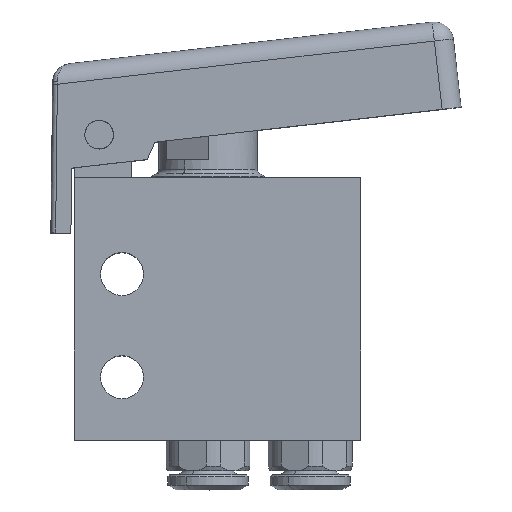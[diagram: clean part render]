
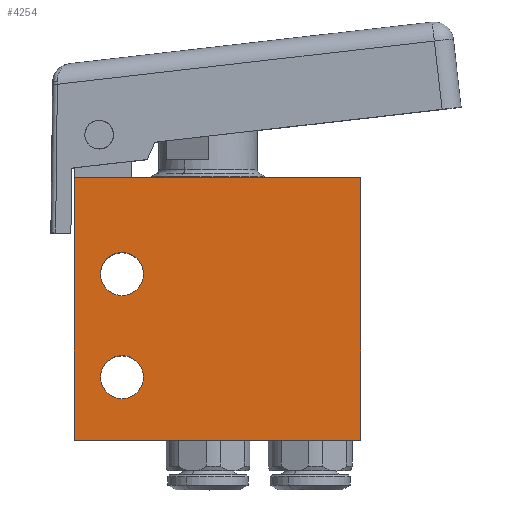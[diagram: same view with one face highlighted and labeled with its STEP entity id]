
A CAD part, top view. The second image highlights one B-rep face of the part: STEP entity #4254.
In plain terms, the highlighted planar face has unit normal (0, 0, 1).
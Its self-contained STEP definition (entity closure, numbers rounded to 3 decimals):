
#105 = DIRECTION ( 'NONE',  ( 1., 0., 0. ) ) ;
#197 = ORIENTED_EDGE ( 'NONE', *, *, #1123, .F. ) ;
#403 = ORIENTED_EDGE ( 'NONE', *, *, #1921, .T. ) ;
#407 = AXIS2_PLACEMENT_3D ( 'NONE', #2236, #5546, #5606 ) ;
#461 = VERTEX_POINT ( 'NONE', #7189 ) ;
#636 = CARTESIAN_POINT ( 'NONE',  ( 2.75, 17.4, 15. ) ) ;
#712 = EDGE_LOOP ( 'NONE', ( #197, #950 ) ) ;
#800 = CARTESIAN_POINT ( 'NONE',  ( 5., 17.4, 15. ) ) ;
#897 = CARTESIAN_POINT ( 'NONE',  ( 0., 27.5, 15. ) ) ;
#950 = ORIENTED_EDGE ( 'NONE', *, *, #7399, .F. ) ;
#1069 = VECTOR ( 'NONE', #2722, 1000. ) ;
#1123 = EDGE_CURVE ( 'NONE', #4762, #7130, #1295, .T. ) ;
#1256 = LINE ( 'NONE', #897, #3111 ) ;
#1279 = LINE ( 'NONE', #6379, #3237 ) ;
#1295 = CIRCLE ( 'NONE', #4478, 2.25 ) ;
#1299 = CARTESIAN_POINT ( 'NONE',  ( 0., 27.5, 15. ) ) ;
#1365 = DIRECTION ( 'NONE',  ( 1., 0., 0. ) ) ;
#1487 = EDGE_LOOP ( 'NONE', ( #6266, #403, #1850, #5217 ) ) ;
#1611 = VERTEX_POINT ( 'NONE', #5913 ) ;
#1693 = VERTEX_POINT ( 'NONE', #8060 ) ;
#1850 = ORIENTED_EDGE ( 'NONE', *, *, #8307, .T. ) ;
#1921 = EDGE_CURVE ( 'NONE', #1693, #5026, #1279, .T. ) ;
#2023 = DIRECTION ( 'NONE',  ( -1., 0., 0. ) ) ;
#2083 = CARTESIAN_POINT ( 'NONE',  ( 30., 0., 15. ) ) ;
#2168 = EDGE_CURVE ( 'NONE', #3025, #1693, #4895, .T. ) ;
#2196 = VECTOR ( 'NONE', #6702, 1000. ) ;
#2236 = CARTESIAN_POINT ( 'NONE',  ( 5., 17.4, 15. ) ) ;
#2258 = FACE_BOUND ( 'NONE', #2889, .T. ) ;
#2702 = CARTESIAN_POINT ( 'NONE',  ( 5., 6.6, 15. ) ) ;
#2722 = DIRECTION ( 'NONE',  ( 0., -1., 0. ) ) ;
#2889 = EDGE_LOOP ( 'NONE', ( #4982, #7860 ) ) ;
#3025 = VERTEX_POINT ( 'NONE', #6271 ) ;
#3111 = VECTOR ( 'NONE', #2023, 1000. ) ;
#3237 = VECTOR ( 'NONE', #7044, 1000. ) ;
#3348 = EDGE_CURVE ( 'NONE', #461, #3025, #1256, .T. ) ;
#3966 = LINE ( 'NONE', #2083, #2196 ) ;
#4001 = EDGE_CURVE ( 'NONE', #8325, #1611, #6616, .T. ) ;
#4024 = CARTESIAN_POINT ( 'NONE',  ( 0., 0., 15. ) ) ;
#4254 = ADVANCED_FACE ( 'NONE', ( #2258, #7552, #5793 ), #4631, .F. ) ;
#4478 = AXIS2_PLACEMENT_3D ( 'NONE', #800, #6712, #105 ) ;
#4487 = CARTESIAN_POINT ( 'NONE',  ( 7.25, 17.4, 15. ) ) ;
#4579 = DIRECTION ( 'NONE',  ( -1., 0., 0. ) ) ;
#4631 = PLANE ( 'NONE',  #6356 ) ;
#4656 = AXIS2_PLACEMENT_3D ( 'NONE', #7526, #8288, #6289 ) ;
#4762 = VERTEX_POINT ( 'NONE', #4487 ) ;
#4875 = CARTESIAN_POINT ( 'NONE',  ( 30., 0., 15. ) ) ;
#4895 = LINE ( 'NONE', #4024, #1069 ) ;
#4982 = ORIENTED_EDGE ( 'NONE', *, *, #6740, .F. ) ;
#5026 = VERTEX_POINT ( 'NONE', #4875 ) ;
#5215 = CIRCLE ( 'NONE', #407, 2.25 ) ;
#5217 = ORIENTED_EDGE ( 'NONE', *, *, #3348, .T. ) ;
#5274 = CARTESIAN_POINT ( 'NONE',  ( 2.75, 6.6, 15. ) ) ;
#5546 = DIRECTION ( 'NONE',  ( 0., 0., 1. ) ) ;
#5606 = DIRECTION ( 'NONE',  ( 1., 0., 0. ) ) ;
#5793 = FACE_OUTER_BOUND ( 'NONE', #1487, .T. ) ;
#5866 = CIRCLE ( 'NONE', #6026, 2.25 ) ;
#5913 = CARTESIAN_POINT ( 'NONE',  ( 7.25, 6.6, 15. ) ) ;
#6026 = AXIS2_PLACEMENT_3D ( 'NONE', #2702, #6621, #1365 ) ;
#6266 = ORIENTED_EDGE ( 'NONE', *, *, #2168, .T. ) ;
#6271 = CARTESIAN_POINT ( 'NONE',  ( 0., 27.5, 15. ) ) ;
#6289 = DIRECTION ( 'NONE',  ( 1., 0., 0. ) ) ;
#6356 = AXIS2_PLACEMENT_3D ( 'NONE', #1299, #7219, #4579 ) ;
#6379 = CARTESIAN_POINT ( 'NONE',  ( 0., 0., 15. ) ) ;
#6616 = CIRCLE ( 'NONE', #4656, 2.25 ) ;
#6621 = DIRECTION ( 'NONE',  ( 0., 0., 1. ) ) ;
#6702 = DIRECTION ( 'NONE',  ( 0., 1., 0. ) ) ;
#6712 = DIRECTION ( 'NONE',  ( 0., 0., 1. ) ) ;
#6740 = EDGE_CURVE ( 'NONE', #1611, #8325, #5866, .T. ) ;
#7044 = DIRECTION ( 'NONE',  ( 1., 0., 0. ) ) ;
#7130 = VERTEX_POINT ( 'NONE', #636 ) ;
#7189 = CARTESIAN_POINT ( 'NONE',  ( 30., 27.5, 15. ) ) ;
#7219 = DIRECTION ( 'NONE',  ( 0., 0., -1. ) ) ;
#7399 = EDGE_CURVE ( 'NONE', #7130, #4762, #5215, .T. ) ;
#7526 = CARTESIAN_POINT ( 'NONE',  ( 5., 6.6, 15. ) ) ;
#7552 = FACE_BOUND ( 'NONE', #712, .T. ) ;
#7860 = ORIENTED_EDGE ( 'NONE', *, *, #4001, .F. ) ;
#8060 = CARTESIAN_POINT ( 'NONE',  ( 0., 0., 15. ) ) ;
#8288 = DIRECTION ( 'NONE',  ( 0., 0., 1. ) ) ;
#8307 = EDGE_CURVE ( 'NONE', #5026, #461, #3966, .T. ) ;
#8325 = VERTEX_POINT ( 'NONE', #5274 ) ;
